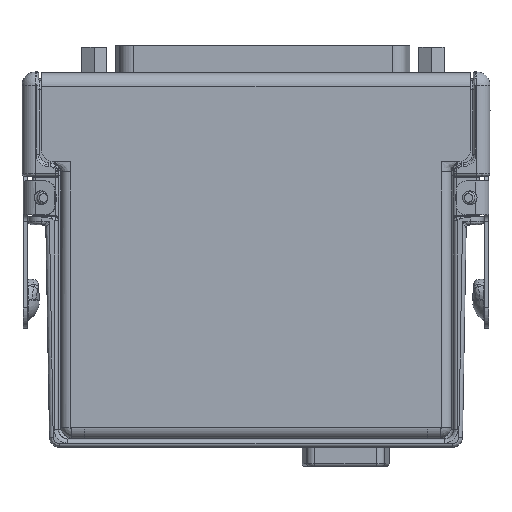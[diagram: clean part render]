
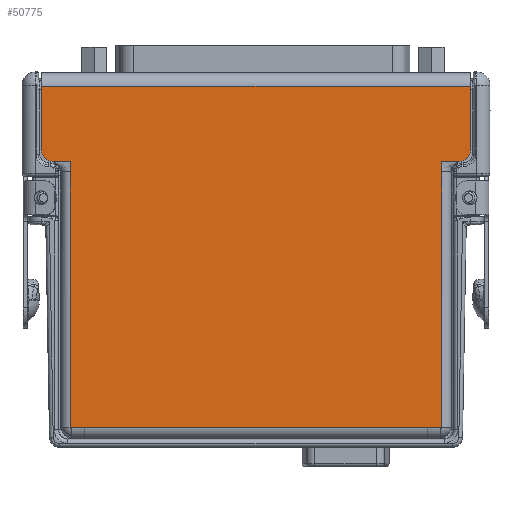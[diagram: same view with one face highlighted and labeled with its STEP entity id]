
A CAD part, left-side view. The second image highlights one B-rep face of the part: STEP entity #50775.
In plain terms, the highlighted planar face has unit normal (-1, 0, 0).
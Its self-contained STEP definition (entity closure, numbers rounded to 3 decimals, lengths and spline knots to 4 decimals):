
#17997=DIRECTION('',(0.,-1.,0.));
#17998=VECTOR('',#17997,3.179);
#17999=CARTESIAN_POINT('',(-0.4475,1.5895,2.676));
#18000=LINE('',#17999,#17998);
#18077=CARTESIAN_POINT('',(-0.4475,1.5095,2.2));
#18078=DIRECTION('',(-1.,0.,0.));
#18079=DIRECTION('',(0.,1.,0.));
#18080=AXIS2_PLACEMENT_3D('',#18077,#18078,#18079);
#18082=DIRECTION('',(0.,-1.,0.));
#18083=VECTOR('',#18082,0.133);
#18084=CARTESIAN_POINT('',(-0.4475,1.5095,2.12));
#18085=LINE('',#18084,#18083);
#18094=DIRECTION('',(0.,0.,-1.));
#18095=VECTOR('',#18094,0.476);
#18096=CARTESIAN_POINT('',(-0.4475,1.5895,2.676));
#18097=LINE('',#18096,#18095);
#18098=DIRECTION('',(0.,0.,1.));
#18099=VECTOR('',#18098,0.476);
#18100=CARTESIAN_POINT('',(-0.4475,-1.5895,2.2));
#18101=LINE('',#18100,#18099);
#18102=DIRECTION('',(0.,0.,1.));
#18103=VECTOR('',#18102,0.079);
#18104=CARTESIAN_POINT('',(-0.4475,-1.3765,2.041));
#18105=LINE('',#18104,#18103);
#18106=DIRECTION('',(0.,-1.,0.));
#18107=VECTOR('',#18106,0.105);
#18108=CARTESIAN_POINT('',(-0.4475,-1.2715,0.146));
#18109=LINE('',#18108,#18107);
#18110=DIRECTION('',(0.,-1.,0.));
#18111=VECTOR('',#18110,0.105);
#18112=CARTESIAN_POINT('',(-0.4475,1.3765,0.146));
#18113=LINE('',#18112,#18111);
#18114=DIRECTION('',(0.,0.,1.));
#18115=VECTOR('',#18114,0.079);
#18116=CARTESIAN_POINT('',(-0.4475,1.3765,2.041));
#18117=LINE('',#18116,#18115);
#18135=CARTESIAN_POINT('',(-0.4475,-1.5095,2.2));
#18136=DIRECTION('',(-1.,0.,0.));
#18137=DIRECTION('',(0.,0.,-1.));
#18138=AXIS2_PLACEMENT_3D('',#18135,#18136,#18137);
#18148=DIRECTION('',(0.,-1.,0.));
#18149=VECTOR('',#18148,0.133);
#18150=CARTESIAN_POINT('',(-0.4475,-1.3765,2.12));
#18151=LINE('',#18150,#18149);
#18183=DIRECTION('',(0.,0.,1.));
#18184=VECTOR('',#18183,1.895);
#18185=CARTESIAN_POINT('',(-0.4475,-1.3765,0.146));
#18186=LINE('',#18185,#18184);
#18374=DIRECTION('',(0.,-1.,0.));
#18375=VECTOR('',#18374,2.543);
#18376=CARTESIAN_POINT('',(-0.4475,1.2715,0.146));
#18377=LINE('',#18376,#18375);
#19926=DIRECTION('',(0.,0.,1.));
#19927=VECTOR('',#19926,1.895);
#19928=CARTESIAN_POINT('',(-0.4475,1.3765,0.146));
#19929=LINE('',#19928,#19927);
#26635=CARTESIAN_POINT('',(-0.4475,-1.5895,2.676));
#26636=VERTEX_POINT('',#26635);
#26637=CARTESIAN_POINT('',(-0.4475,1.5895,2.676));
#26638=VERTEX_POINT('',#26637);
#26667=CARTESIAN_POINT('',(-0.4475,1.2715,0.146));
#26668=CARTESIAN_POINT('',(-0.4475,-1.2715,0.146));
#26669=VERTEX_POINT('',#26667);
#26670=VERTEX_POINT('',#26668);
#26679=CARTESIAN_POINT('',(-0.4475,-1.3765,0.146));
#26680=VERTEX_POINT('',#26679);
#26691=CARTESIAN_POINT('',(-0.4475,1.3765,0.146));
#26692=VERTEX_POINT('',#26691);
#26740=CARTESIAN_POINT('',(-0.4475,1.5095,2.12));
#26742=VERTEX_POINT('',#26740);
#26745=CARTESIAN_POINT('',(-0.4475,1.5895,2.2));
#26746=VERTEX_POINT('',#26745);
#26748=CARTESIAN_POINT('',(-0.4475,-1.5895,2.2));
#26750=VERTEX_POINT('',#26748);
#26753=CARTESIAN_POINT('',(-0.4475,-1.5095,2.12));
#26754=VERTEX_POINT('',#26753);
#26767=CARTESIAN_POINT('',(-0.4475,-1.3765,2.041));
#26768=VERTEX_POINT('',#26767);
#26771=CARTESIAN_POINT('',(-0.4475,-1.3765,2.12));
#26772=VERTEX_POINT('',#26771);
#26779=CARTESIAN_POINT('',(-0.4475,1.3765,2.041));
#26780=CARTESIAN_POINT('',(-0.4475,1.3765,2.12));
#26781=VERTEX_POINT('',#26779);
#26782=VERTEX_POINT('',#26780);
#50743=CARTESIAN_POINT('',(-0.4475,0.,1.421));
#50744=DIRECTION('',(-1.,0.,0.));
#50745=DIRECTION('',(0.,1.,0.));
#50746=AXIS2_PLACEMENT_3D('',#50743,#50744,#50745);
#50747=PLANE('',#50746);
#50748=ORIENTED_EDGE('',*,*,#50724,.F.);
#50750=ORIENTED_EDGE('',*,*,#50749,.F.);
#50751=ORIENTED_EDGE('',*,*,#50604,.T.);
#50753=ORIENTED_EDGE('',*,*,#50752,.F.);
#50755=ORIENTED_EDGE('',*,*,#50754,.F.);
#50757=ORIENTED_EDGE('',*,*,#50756,.F.);
#50759=ORIENTED_EDGE('',*,*,#50758,.F.);
#50761=ORIENTED_EDGE('',*,*,#50760,.F.);
#50763=ORIENTED_EDGE('',*,*,#50762,.F.);
#50765=ORIENTED_EDGE('',*,*,#50764,.F.);
#50767=ORIENTED_EDGE('',*,*,#50766,.F.);
#50769=ORIENTED_EDGE('',*,*,#50768,.T.);
#50771=ORIENTED_EDGE('',*,*,#50770,.T.);
#50772=ORIENTED_EDGE('',*,*,#50735,.F.);
#50773=EDGE_LOOP('',(#50748,#50750,#50751,#50753,#50755,#50757,#50759,#50761,
#50763,#50765,#50767,#50769,#50771,#50772));
#50774=FACE_OUTER_BOUND('',#50773,.F.);
#50775=ADVANCED_FACE('',(#50774),#50747,.T.);
#18081=CIRCLE('',#18080,0.08);
#18139=CIRCLE('',#18138,0.08);
#50604=EDGE_CURVE('',#26638,#26636,#18000,.T.);
#50724=EDGE_CURVE('',#26746,#26742,#18081,.T.);
#50735=EDGE_CURVE('',#26742,#26782,#18085,.T.);
#50749=EDGE_CURVE('',#26638,#26746,#18097,.T.);
#50752=EDGE_CURVE('',#26750,#26636,#18101,.T.);
#50754=EDGE_CURVE('',#26754,#26750,#18139,.T.);
#50756=EDGE_CURVE('',#26772,#26754,#18151,.T.);
#50758=EDGE_CURVE('',#26768,#26772,#18105,.T.);
#50760=EDGE_CURVE('',#26680,#26768,#18186,.T.);
#50762=EDGE_CURVE('',#26670,#26680,#18109,.T.);
#50764=EDGE_CURVE('',#26669,#26670,#18377,.T.);
#50766=EDGE_CURVE('',#26692,#26669,#18113,.T.);
#50768=EDGE_CURVE('',#26692,#26781,#19929,.T.);
#50770=EDGE_CURVE('',#26781,#26782,#18117,.T.);
